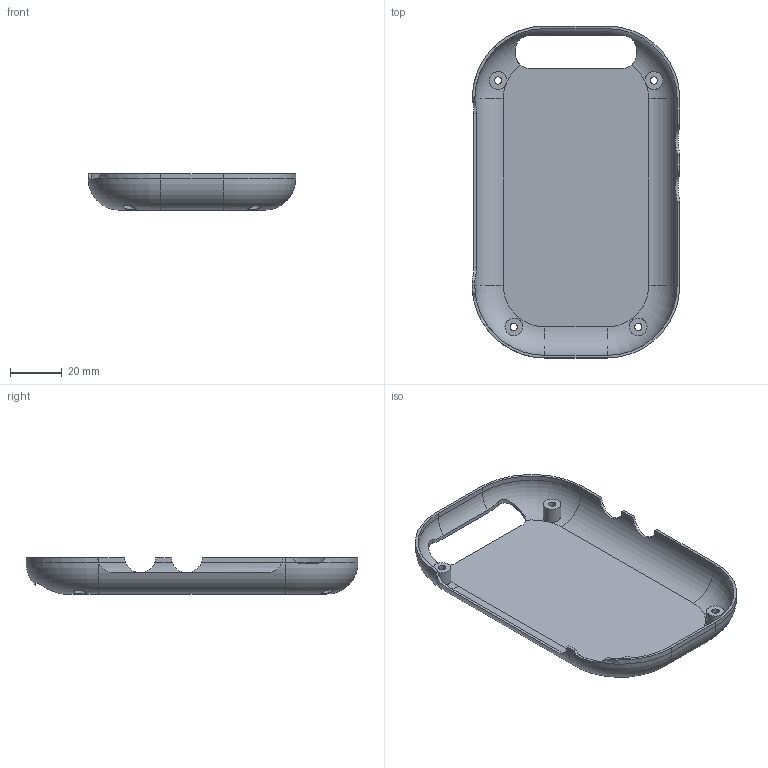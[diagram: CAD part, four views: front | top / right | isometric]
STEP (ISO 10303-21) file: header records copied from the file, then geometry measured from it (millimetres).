
FILE_DESCRIPTION(('Open CASCADE Model'),'2;1');
FILE_NAME('Open CASCADE Shape Model','2026-09-08T13:32:07',('Author'),( 'Open CASCADE'),'Open CASCADE STEP processor 7.7','Open CASCADE 7.7' ,'Unknown');
FILE_SCHEMA(('AUTOMOTIVE_DESIGN { 1 0 10303 214 1 1 1 1 }'));
Length unit declared in the file: millimetre
Products named in the file (1): Open CASCADE STEP translator 7.7 18
Bounding box: 80 x 128 x 13.95 mm (x, y, z)
Volume: 11672.8 mm3; surface area: 23847.6 mm2
Topology: 1 solids, 1 shells, 82 faces, 212 edges, 136 vertices
Faces by surface type: cylinder 40, plane 34, torus 8
Full cylindrical faces by diameter (mm): 2.8 x4, 5 x4, 6.8 x4
Entity records: 10821 total; most frequent: CARTESIAN_POINT 6807, DIRECTION 683, ORIENTED_EDGE 424, PCURVE 424, DEFINITIONAL_REPRESENTATION 424, LINE 322, VECTOR 322, EDGE_CURVE 212
